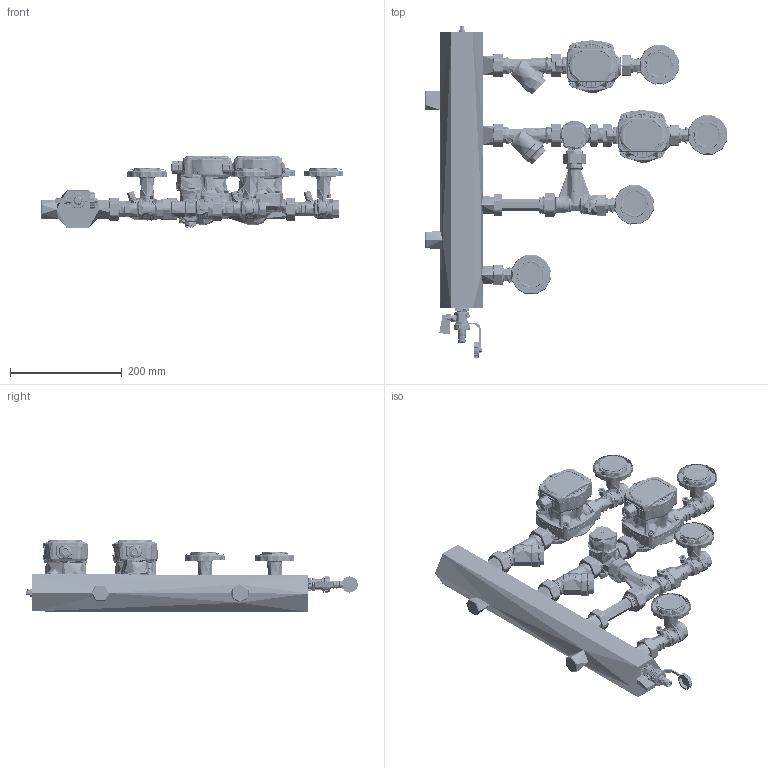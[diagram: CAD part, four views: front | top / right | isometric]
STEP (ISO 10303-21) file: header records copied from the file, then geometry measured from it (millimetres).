
FILE_DESCRIPTION (( 'STEP AP214' ), '1' );
FILE_NAME ('BPS_zestaw_mieszajacy_ze_sprzeglem_hydraulicznym_9090620_0_3D_AFRISO.STEP', '2024-11-25T08:11:46', ( '' ), ( '' ), 'SwSTEP 2.0', 'SolidWorks 2025', '' );
FILE_SCHEMA (( 'AUTOMOTIVE_DESIGN' ));
Length unit declared in the file: millimetre
Products named in the file (63): Anello-Elastico-553-S-1-53105253; 05 01 001117_Verstellhebel DN20_DN25; O-ring-4125-PE32-52905023_2; 90405017-1963-1DFx34F-GIALLO-MAN-NERA_ASSIEME; Pokrętło ARV; Corpo-Valvola-DN20-Lavorato_1; Corpo-Filtro-Lavorato_2; 10405027-1963-1DFx34F-Maniglia-Termometro-Nera_TERMOMETRO; Asta-840-12-Unificata-30505300; Assieme-Valvola-Tee-Check_ASSIEME_1; Dado-Fissaggio-Maniglia-1870-A-31505091; Dado-gruppo-imar-ch37-d23-Lavorato-51505423; SPINDEL; APH-100-15-7-130_LFP; ARV_nowa generacja (pokrętło); Corpo-1963-DN20-Lavorato-30105655; Dado-1460- 1-Lavorato-31505460_2; GRIFF; 20405011-1963-34-GIALLO_ASSIEME; 70405017-1963-1DFx34F-GIALLO-MAN-NERA_ASSIEME; HALTELASCHE; 3384-DN20-Raccordo-1xTubo-Ř22-31705004; 42407; GEWINDERING G1_2; Grano-M4x6-52110003; Sockel Mischerbet. _AFRISO-PL__2017-05-31; O-ring-2018-EPDM 70 N01C; Filtro-1410-114-53505410_2; Guarnizione-840-34-ptfe-52705005_1; Dado-553-S-1-Lavorato-31505553_1; Sfera-300-34-Lavorata-33208005; odpowietrznik_reczny; T_LLE; Anello-Elastico-553-S-1-53105253_Per assemblaggio_1; 1961-S-Portasonda-_X2_0158_X0_6-Lavorato-30805032; DECKEL0G304; Assieme-Filtro1; Raccordo-840-34-Lavorato-31605312_Sabbiata; Check-dn25-HT-con-alette_1; GEH_USE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
Assembly tree (79 placements, depth 6):
  BPS_zestaw_mieszajacy_ze_sprzeglem_hydraulicznym_9090620_0_3D_AFRISO
    10405027-1963-1DFx34F-Maniglia-Termometro-Nera_TERMOMETRO  x4
      70405017-1963-1DFx34F-GIALLO-MAN-NERA_ASSIEME
        90405017-1963-1DFx34F-GIALLO-MAN-NERA_ASSIEME
          20405011-1963-34-GIALLO_ASSIEME
            Corpo-1963-DN20-Lavorato-30105655
            Sfera-300-34-Lavorata-33208005
            Guarnizione-840-34-ptfe-52705005  x2
            Asta-840-12-Unificata-30505300
            O-ring-2018-EPDM 70 N01C  x2
            Raccordo-840-34-Lavorato-31605312_Sabbiata
          maniglia-1870-1871_Nera
          Dado-Fissaggio-Maniglia-1870-A-31505091
          Inserto-Maniglia-1870-52005071
          Grano-M4x6-52110003
          1961-S-Portasonda-_X2_0158_X0_6-Lavorato-30805032
        Anello-Elastico-553-S-1-53105253
        Dado-553-S-1-Lavorato-31505553
    Assieme-Filtro1  x2
      Corpo-Filtro-Lavorato_2
      Anello-Elastico-1460-Ř28x2-53105460_2
      Dado-1460- 1-Lavorato-31505460_2
      3438-Tappo Filtro Lavorato_2
      Filtro-1410-114-53505410_2
      O-ring-4125-PE32-52905023_2
    M1605404-3404-1x1-Prolunga-Montata_1
      3404-Prolunga-1Fx1DF-Lavorata-L1605404_1
      Anello-Elastico-553-S-1-53105253_Per assemblaggio_1
      Dado-553-S-1-Lavorato-31505553_1
    Assieme-Valvola-Tee-Check_ASSIEME_1
      Corpo-Valvola-DN20-Lavorato_1
      Sfera-300-34-Lavorata-33208005_1
      Guarnizione-840-34-ptfe-52705005_1  x2
      Raccordo-840-34-Lavorato-31605312_Sabbiata_1
      Dado-1460- 1-Lavorato-31505460_2  x2
      Anello-Elastico-1460-Ř28x2-53105460_2  x2
      Check-dn25-HT-con-alette_1
    Pokrętło ARV
      ARV_nowa generacja (pokrętło)
      Sockel Mischerbet. _AFRISO-PL__2017-05-31
    Tubo-22-1DFx1M
      Tubo-22
      3384-DN20-Raccordo-1xTubo-Ř22-31705004
      Dado-gruppo-imar-ch37-d23-Lavorato-51505423
    42407
      KFE_HAHN G1_2 PTFE
        DECKEL0G304
          FLACHDICHTUNG
        SPINDEL
        GEWINDEDICHTRING G1_2
        GEWINDERING G1_2
        GRIFF
        T_LLE
        MUTTER G3_4
        GEH_USE
        HALTELASCHE
        DECKEL G3_4
    pokretlo na termometr  x4
    APH-100-15-7-130_LFP  x2
    odpowietrznik_reczny
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Bounding box: 542.15 x 594.81 x 129.7 mm (x, y, z)
Topology: 137 solids, 153 shells, 20796 faces, 51064 edges, 31137 vertices
Faces by surface type: plane 6208, cylinder 4225, bspline 4116, cone 4096, torus 1655, sphere 496
Entity records: 566905 total; most frequent: CARTESIAN_POINT 336570, ORIENTED_EDGE 49430, DIRECTION 40078, EDGE_CURVE 24715, AXIS2_PLACEMENT_3D 15668, VERTEX_POINT 15058, EDGE_LOOP 10661, FACE_OUTER_BOUND 10154
